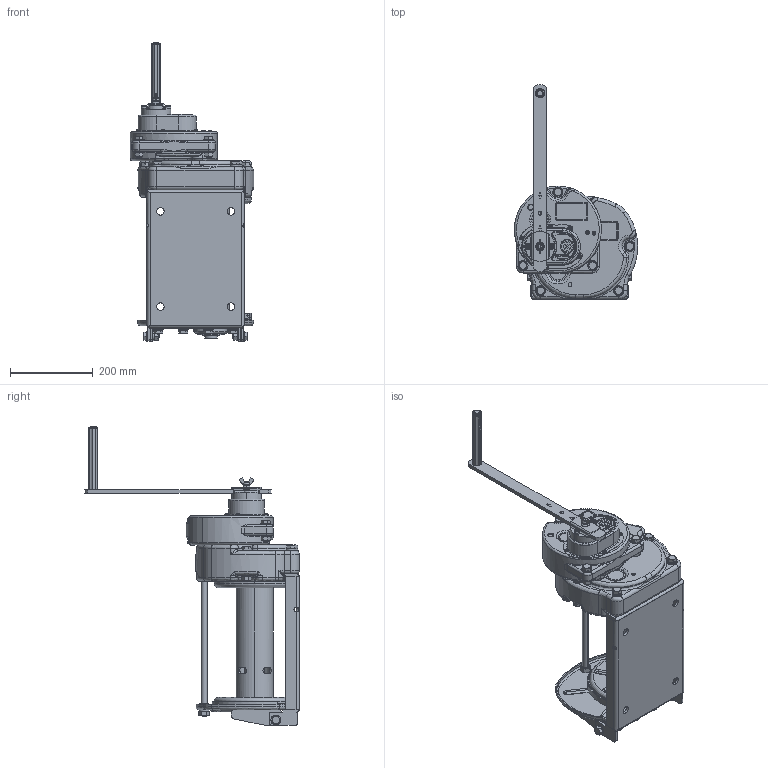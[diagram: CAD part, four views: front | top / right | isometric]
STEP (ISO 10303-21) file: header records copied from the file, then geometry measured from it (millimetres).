
FILE_DESCRIPTION( (''), '2;1');
FILE_NAME ('GM-30-SI.stp','2023-12-21T16:15:09',(''),(''),'spGate 19.8.2 (****-****-****-****)','','');
FILE_SCHEMA (('AUTOMOTIVE_DESIGN'));
Length unit declared in the file: millimetre
Products named in the file (3): Assembly; GM-30-SI-prt0; GM-30-SI-prt1
Assembly tree (2 placements, depth 2):
  Assembly
    GM-30-SI-prt0
    GM-30-SI-prt1
Bounding box: 297.46 x 518.43 x 723.3 mm (x, y, z)
Volume: 10601884.8 mm3; surface area: 1145139.8 mm2
Topology: 2 solids, 2 shells, 3170 faces, 8158 edges, 5072 vertices
Faces by surface type: plane 1512, cylinder 965, bspline 611, sphere 82
Entity records: 174536 total; most frequent: CARTESIAN_POINT 35691, ORIENTED_EDGE 16112, DIRECTION 15241, COLOUR_RGB 11228, PRESENTATION_STYLE_ASSIGNMENT 11228, STYLED_ITEM 11228, EDGE_CURVE 8056, DRAUGHTING_PRE_DEFINED_CURVE_FONT 8056
